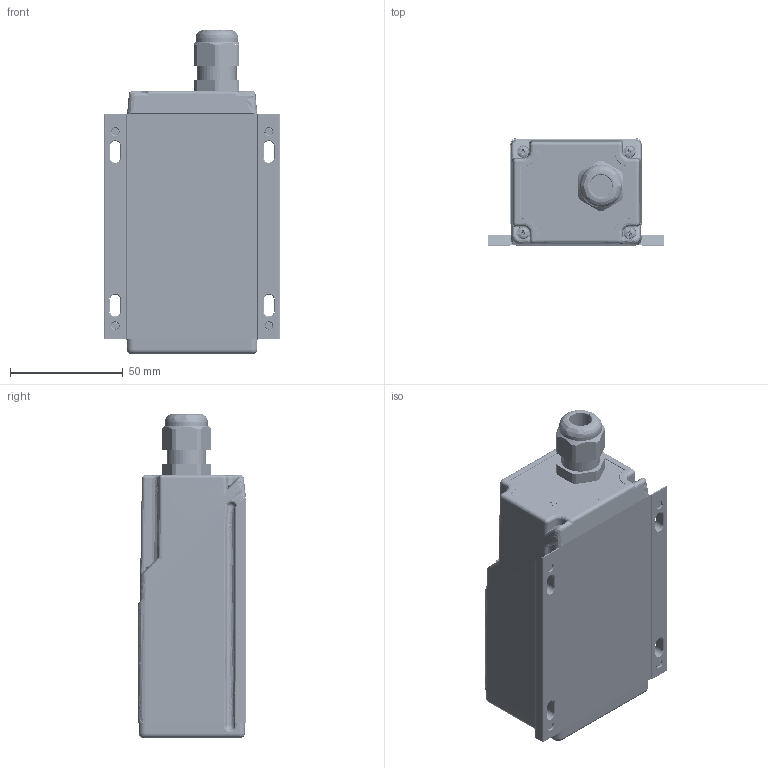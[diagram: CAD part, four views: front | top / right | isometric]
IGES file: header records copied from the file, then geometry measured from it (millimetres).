
Start section: SolidWorks IGES file using analytic representation for surfaces
Global section: file name: U:\Technik\SolidWorks\Produkte\Generation-D\Gehäuse\Gehäuse\Exportdaten\20170907_PartExport_Simplified\Dimetix_D_Generation.IGS; native system: SolidWorks 2014; preprocessor: SolidWorks 2014; author: Andreas; date: 170907.120048; units: millimetre
Bounding box: 78 x 47.9 x 143.5 mm (x, y, z)
Surface area: 116246.7 mm2 (no closed solid volume)
Topology: 0 solids, 0 shells, 3639 faces, 36945 edges, 36882 vertices
Faces by surface type: bspline 2283, revolution 1356
